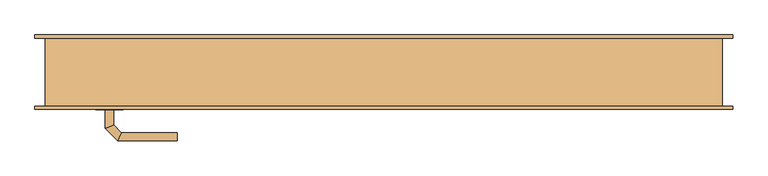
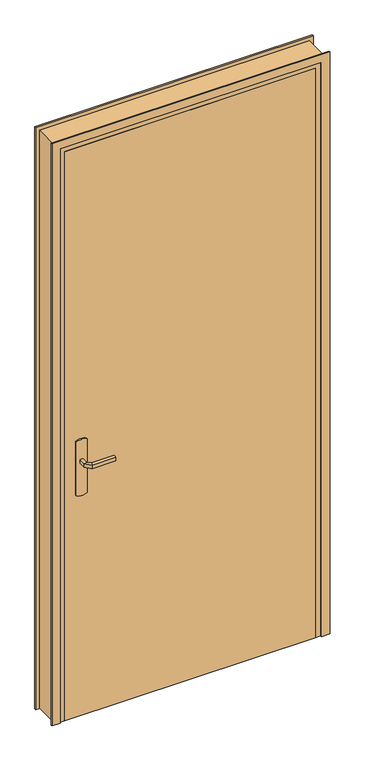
"""IFC4 building model written with IfcOpenShell, lengths in millimetres: door geometry, @_Int. Simple : @_PP (0.93m x 2.25)."""

from ifc_helpers import new_model, si_unit, point, frame, frame_2d, origin, origin_with_axes, place, context, project, spatial, polyline, circle_curve, ellipse_curve, trimmed, segment, composite_curve, outline, extrude, faceted_brep, source, transform, mapped, element, save
from ifc_brep_helpers import plane_surface, cylinder_surface, advanced_brep


def door_f0ec710b(model_context):
    return source(origin(), model_context, "Body", "SolidModel", [
        extrude(outline(composite_curve([segment(trimmed(circle_curve(frame_2d((904.6410162, -440.0)), 40.0), [point((870.0, -460.0))], [point((870.0, -420.0))], False, "CARTESIAN"), True, "CONTINUOUS"), segment(polyline([(870.0, -420.0), (1080.0, -420.0)]), True, "CONTINUOUS"), segment(trimmed(circle_curve(frame_2d((1045.3589838, -440.0)), 40.0), [point((1080.0, -420.0))], [point((1080.0, -460.0))], False, "CARTESIAN"), True, "CONTINUOUS"), segment(polyline([(1080.0, -460.0), (870.0, -460.0)]), True, "CONTINUOUS")], self_intersect=False)), frame((0.0, -55.0, 0.0), z_axis=(0.0, 1.0, 0.0), x_axis=(0.0, 0.0, 1.0)), (0.0, 0.0, 1.0), 5.0),
        extrude(outline(composite_curve([segment(trimmed(circle_curve(frame_2d((1045.3589838, -440.0)), 40.0), [point((1080.0, -420.0))], [point((1080.0, -460.0))], False, "CARTESIAN"), True, "CONTINUOUS"), segment(polyline([(1080.0, -460.0), (870.0, -460.0)]), True, "CONTINUOUS"), segment(trimmed(circle_curve(frame_2d((904.6410162, -440.0)), 40.0), [point((870.0, -460.0))], [point((870.0, -420.0))], False, "CARTESIAN"), True, "CONTINUOUS"), segment(polyline([(870.0, -420.0), (1080.0, -420.0)]), True, "CONTINUOUS")], self_intersect=False)), frame((0.0, -10.0, 0.0), z_axis=(0.0, 1.0, 0.0), x_axis=(0.0, 0.0, 1.0)), (0.0, 0.0, 1.0), 5.0),
        advanced_brep(
        [(-446.0, -55.0, 1007.0), (-434.0, -55.0, 1007.0), (-434.0, -55.0, 993.0), (-446.0, -55.0, 993.0), (-446.0, -82.6509507, 1007.0), (-434.0, -77.680388, 1007.0), (-434.0, -77.680388, 993.0), (-446.0, -82.6509507, 993.0), (-427.62279, -101.0281607, 1007.0), (-422.6522273, -89.0281607, 1007.0), (-422.6522273, -89.0281607, 993.0), (-427.62279, -101.0281607, 993.0), (-339.9813594, -101.0281607, 1007.0), (-339.9813594, -101.0281607, 993.0), (-339.9813594, -89.0281607, 993.0), (-339.9813594, -89.0281607, 1007.0)],
        [
            (0, 1, circle_curve(frame((-440.0, -55.0, 986.9542278), z_axis=(0.0, 1.0, 0.0), x_axis=(1.0, 0.0, 0.0)), 20.9244589)),
            (1, 2),
            (2, 3, circle_curve(frame((-440.0, -55.0, 1013.0457722), z_axis=(0.0, 1.0, 0.0), x_axis=(1.0, 0.0, 0.0)), 20.9244589)),
            (3, 0),
            (0, 4),
            (4, 5, ellipse_curve(frame((-440.0, -80.1656693, 986.9542278), z_axis=(-0.3826834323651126, 0.9238795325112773, 0.0), x_axis=(0.9238795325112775, 0.38268343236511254, 0.0)), 22.6484711, 20.9244589)),
            (5, 1),
            (5, 6),
            (6, 2),
            (6, 7, ellipse_curve(frame((-440.0, -80.1656693, 1013.0457722), z_axis=(-0.3826834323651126, 0.9238795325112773, 0.0), x_axis=(0.9238795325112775, 0.38268343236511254, 0.0)), 22.6484711, 20.9244589)),
            (7, 3),
            (7, 4),
            (4, 8),
            (8, 9, ellipse_curve(frame((-425.1375086, -95.0281607, 986.9542278), z_axis=(-0.9238795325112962, 0.38268343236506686, 0.0), x_axis=(0.3826834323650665, 0.9238795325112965, 0.0)), 22.6484711, 20.9244589)),
            (9, 5),
            (9, 10),
            (10, 6),
            (10, 11, ellipse_curve(frame((-425.1375086, -95.0281607, 1013.0457722), z_axis=(-0.9238795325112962, 0.38268343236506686, 0.0), x_axis=(0.3826834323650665, 0.9238795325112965, 0.0)), 22.6484711, 20.9244589)),
            (11, 7),
            (11, 8),
            (12, 13),
            (13, 14, circle_curve(frame((-339.9813594, -95.0281607, 1013.0457722), z_axis=(1.0, 0.0, 0.0), x_axis=(0.0, 1.0, 0.0)), 20.9244589)),
            (14, 15),
            (15, 12, circle_curve(frame((-339.9813594, -95.0281607, 986.9542278), z_axis=(1.0, 0.0, 0.0), x_axis=(0.0, 1.0, 0.0)), 20.9244589)),
            (8, 12),
            (15, 9),
            (14, 10),
            (13, 11),
        ],
        [
            plane_surface(frame((-449.2195445, -55.0, 1000.0), z_axis=(0.0, 1.0, 0.0), x_axis=(0.0, 0.0, -1.0))),
            cylinder_surface(frame((-440.0, -55.0, 986.9542278), z_axis=(0.0, 1.0, 0.0), x_axis=(1.0, 0.0, 0.0)), 20.9244589),
            plane_surface(frame((-434.0, -55.0, 1007.0), z_axis=(1.0, 0.0, 0.0), x_axis=(0.0, -1.0, 0.0))),
            cylinder_surface(frame((-440.0, -55.0, 1013.0457722), z_axis=(0.0, 1.0, 0.0), x_axis=(1.0, 0.0, 0.0)), 20.9244589),
            plane_surface(frame((-446.0, -55.0, 993.0), z_axis=(-1.0, 0.0, 0.0), x_axis=(0.0, -1.0, 0.0))),
            cylinder_surface(frame((-440.0, -80.1656693, 986.9542278), z_axis=(-0.7071067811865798, 0.7071067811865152, 0.0), x_axis=(0.7071067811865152, 0.7071067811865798, 0.0)), 20.9244589),
            plane_surface(frame((-434.0, -77.680388, 1007.0), z_axis=(0.7071067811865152, 0.7071067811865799, 0.0), x_axis=(0.7071067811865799, -0.7071067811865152, 0.0))),
            cylinder_surface(frame((-440.0, -80.1656693, 1013.0457722), z_axis=(-0.7071067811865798, 0.7071067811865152, 0.0), x_axis=(0.7071067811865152, 0.7071067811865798, 0.0)), 20.9244589),
            plane_surface(frame((-446.0, -82.6509507, 993.0), z_axis=(-0.7071067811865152, -0.7071067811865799, 0.0), x_axis=(0.7071067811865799, -0.7071067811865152, 0.0))),
            plane_surface(frame((-339.9813594, -95.0281607, 990.7804555), z_axis=(1.0, 0.0, 0.0), x_axis=(0.0, 1.0, 0.0))),
            cylinder_surface(frame((-425.1375086, -95.0281607, 986.9542278), z_axis=(-1.0, 0.0, 0.0), x_axis=(0.0, 1.0, 0.0)), 20.9244589),
            plane_surface(frame((-422.6522273, -89.0281607, 1007.0), z_axis=(0.0, 1.0, 0.0), x_axis=(1.0, 0.0, 0.0))),
            cylinder_surface(frame((-425.1375086, -95.0281607, 1013.0457722), z_axis=(-1.0, 0.0, 0.0), x_axis=(0.0, 1.0, 0.0)), 20.9244589),
            plane_surface(frame((-427.62279, -101.0281607, 993.0), z_axis=(0.0, -1.0, 0.0), x_axis=(1.0, 0.0, 0.0))),
        ],
        [
            (0, [[1, 2, 3, 4]]),
            (1, [[-1, 5, 6, 7]]),
            (2, [[-2, -7, 8, 9]]),
            (3, [[-3, -9, 10, 11]]),
            (4, [[-4, -11, 12, -5]]),
            (5, [[-6, 13, 14, 15]]),
            (6, [[-8, -15, 16, 17]]),
            (7, [[-10, -17, 18, 19]]),
            (8, [[-12, -19, 20, -13]]),
            (9, [[21, 22, 23, 24]]),
            (10, [[-14, 25, -24, 26]]),
            (11, [[-16, -26, -23, 27]]),
            (12, [[-18, -27, -22, 28]]),
            (13, [[-20, -28, -21, -25]]),
        ],
    ),
        advanced_brep(
        [(-434.0, -5.0, 993.0), (-434.0, -5.0, 1007.0), (-446.0, -5.0, 1007.0), (-446.0, -5.0, 993.0), (-434.0, 17.4852045, 993.0), (-434.0, 17.4852045, 1007.0), (-446.0, 22.4557673, 1007.0), (-446.0, 22.4557673, 993.0), (-422.5147186, 28.9704859, 993.0), (-422.5147186, 28.9704859, 1007.0), (-427.4852814, 40.9704859, 1007.0), (-427.4852814, 40.9704859, 993.0), (-339.9542163, 28.9704859, 993.0), (-339.9542163, 40.9704859, 993.0), (-339.9542163, 40.9704859, 1007.0), (-339.9542163, 28.9704859, 1007.0)],
        [
            (0, 1),
            (1, 2, circle_curve(frame((-440.0, -5.0, 986.9542278), z_axis=(0.0, -1.0, 0.0), x_axis=(-1.0, 0.0, 0.0)), 20.9244589)),
            (2, 3),
            (3, 0, circle_curve(frame((-440.0, -5.0, 1013.0457722), z_axis=(0.0, -1.0, 0.0), x_axis=(-1.0, 0.0, 0.0)), 20.9244589)),
            (0, 4),
            (4, 5),
            (5, 1),
            (5, 6, ellipse_curve(frame((-440.0, 19.9704859, 986.9542278), z_axis=(-0.3826834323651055, -0.9238795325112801, 0.0), x_axis=(0.9238795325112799, -0.3826834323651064, 0.0)), 22.6484711, 20.9244589)),
            (6, 2),
            (6, 7),
            (7, 3),
            (7, 4, ellipse_curve(frame((-440.0, 19.9704859, 1013.0457722), z_axis=(-0.3826834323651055, -0.9238795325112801, 0.0), x_axis=(0.9238795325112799, -0.3826834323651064, 0.0)), 22.6484711, 20.9244589)),
            (4, 8),
            (8, 9),
            (9, 5),
            (9, 10, ellipse_curve(frame((-425.0, 34.9704859, 986.9542278), z_axis=(-0.9238795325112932, -0.382683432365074, 0.0), x_axis=(0.3826834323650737, -0.9238795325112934, 0.0)), 22.6484711, 20.9244589)),
            (10, 6),
            (10, 11),
            (11, 7),
            (11, 8, ellipse_curve(frame((-425.0, 34.9704859, 1013.0457722), z_axis=(-0.9238795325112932, -0.382683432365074, 0.0), x_axis=(0.3826834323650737, -0.9238795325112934, 0.0)), 22.6484711, 20.9244589)),
            (12, 13, circle_curve(frame((-339.9542163, 34.9704859, 1013.0457722), z_axis=(1.0, 0.0, 0.0), x_axis=(0.0, 1.0, 0.0)), 20.9244589)),
            (13, 14),
            (14, 15, circle_curve(frame((-339.9542163, 34.9704859, 986.9542278), z_axis=(1.0, 0.0, 0.0), x_axis=(0.0, 1.0, 0.0)), 20.9244589)),
            (15, 12),
            (8, 12),
            (15, 9),
            (14, 10),
            (13, 11),
        ],
        [
            plane_surface(frame((-449.2195445, -5.0, 1000.0), z_axis=(0.0, -1.0, 0.0), x_axis=(0.0, 0.0, 1.0))),
            plane_surface(frame((-434.0, -5.0, 993.0), z_axis=(1.0, 0.0, 0.0), x_axis=(0.0, 1.0, 0.0))),
            cylinder_surface(frame((-440.0, -5.0, 986.9542278), z_axis=(0.0, -1.0, 0.0), x_axis=(-1.0, 0.0, 0.0)), 20.9244589),
            plane_surface(frame((-446.0, -5.0, 1007.0), z_axis=(-1.0, 0.0, 0.0), x_axis=(0.0, 1.0, 0.0))),
            cylinder_surface(frame((-440.0, -5.0, 1013.0457722), z_axis=(0.0, -1.0, 0.0), x_axis=(-1.0, 0.0, 0.0)), 20.9244589),
            plane_surface(frame((-434.0, 17.4852045, 993.0), z_axis=(0.7071067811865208, -0.7071067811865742, 0.0), x_axis=(0.7071067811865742, 0.7071067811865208, 0.0))),
            cylinder_surface(frame((-440.0, 19.9704859, 986.9542278), z_axis=(-0.7071067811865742, -0.7071067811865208, 0.0), x_axis=(-0.7071067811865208, 0.7071067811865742, 0.0)), 20.9244589),
            plane_surface(frame((-446.0, 22.4557673, 1007.0), z_axis=(-0.7071067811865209, 0.7071067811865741, 0.0), x_axis=(0.7071067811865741, 0.7071067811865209, 0.0))),
            cylinder_surface(frame((-440.0, 19.9704859, 1013.0457722), z_axis=(-0.7071067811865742, -0.7071067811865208, 0.0), x_axis=(-0.7071067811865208, 0.7071067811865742, 0.0)), 20.9244589),
            plane_surface(frame((-339.9542163, 34.9704859, 990.7804555), z_axis=(1.0, 0.0, 0.0), x_axis=(0.0, 1.0, 0.0))),
            plane_surface(frame((-422.5147186, 28.9704859, 993.0), z_axis=(0.0, -1.0, 0.0), x_axis=(1.0, 0.0, 0.0))),
            cylinder_surface(frame((-425.0, 34.9704859, 986.9542278), z_axis=(-1.0, 0.0, 0.0), x_axis=(0.0, 1.0, 0.0)), 20.9244589),
            plane_surface(frame((-427.4852814, 40.9704859, 1007.0), z_axis=(0.0, 1.0, 0.0), x_axis=(1.0, 0.0, 0.0))),
            cylinder_surface(frame((-425.0, 34.9704859, 1013.0457722), z_axis=(-1.0, 0.0, 0.0), x_axis=(0.0, 1.0, 0.0)), 20.9244589),
        ],
        [
            (0, [[1, 2, 3, 4]]),
            (1, [[-1, 5, 6, 7]]),
            (2, [[-2, -7, 8, 9]]),
            (3, [[-3, -9, 10, 11]]),
            (4, [[-4, -11, 12, -5]]),
            (5, [[-6, 13, 14, 15]]),
            (6, [[-8, -15, 16, 17]]),
            (7, [[-10, -17, 18, 19]]),
            (8, [[-12, -19, 20, -13]]),
            (9, [[21, 22, 23, 24]]),
            (10, [[-14, 25, -24, 26]]),
            (11, [[-16, -26, -23, 27]]),
            (12, [[-18, -27, -22, 28]]),
            (13, [[-20, -28, -21, -25]]),
        ],
    ),
        extrude(outline(polyline([(-500.0, -10.0), (430.0, -10.0), (430.0, -50.0), (-500.0, -50.0), (-500.0, -10.0)])), origin_with_axes(), (0.0, 0.0, 1.0), 2230.0),
        faceted_brep([(-535.0, -50.0, 0.0), (-535.0, 50.0, 0.0), (-485.0, 50.0, 0.0), (-485.0, -10.0, 0.0), (-500.0, -10.0, 0.0), (-500.0, -50.0, 0.0), (-535.0, -50.0, 2265.0), (-535.0, 50.0, 2265.0), (465.0, 50.0, 2265.0), (465.0, 50.0, 0.0), (415.0, 50.0, 0.0), (415.0, 50.0, 2215.0), (-485.0, 50.0, 2215.0), (-485.0, -10.0, 2215.0), (415.0, -10.0, 2215.0), (415.0, -10.0, 0.0), (430.0, -10.0, 0.0), (430.0, -10.0, 2230.0), (-500.0, -10.0, 2230.0), (-500.0, -50.0, 2230.0), (430.0, -50.0, 2230.0), (430.0, -50.0, 0.0), (465.0, -50.0, 0.0), (465.0, -50.0, 2265.0)], [[[0, 1, 2, 3, 4, 5]], [[1, 0, 6, 7]], [[2, 1, 7, 8, 9, 10, 11, 12]], [[3, 2, 12, 13]], [[4, 3, 13, 14, 15, 16, 17, 18]], [[5, 4, 18, 19]], [[0, 5, 19, 20, 21, 22, 23, 6]], [[8, 23, 22, 9]], [[22, 21, 16, 15, 10, 9]], [[14, 11, 10, 15]], [[20, 17, 16, 21]], [[7, 6, 23, 8]], [[13, 12, 11, 14]], [[19, 18, 17, 20]]]),
        extrude(outline(polyline([(0.0, -550.0), (0.0, -520.0), (2250.0, -520.0), (2250.0, 450.0), (0.0, 450.0), (0.0, 480.0), (2280.0, 480.0), (2280.0, -550.0), (0.0, -550.0)])), frame((0.0, -55.0, 0.0), z_axis=(0.0, 1.0, 0.0), x_axis=(0.0, 0.0, 1.0)), (0.0, 0.0, 1.0), 5.0),
        extrude(outline(polyline([(0.0, -550.0), (0.0, -520.0), (2250.0, -520.0), (2250.0, 450.0), (0.0, 450.0), (0.0, 480.0), (2280.0, 480.0), (2280.0, -550.0), (0.0, -550.0)])), frame((0.0, 50.0, 0.0), z_axis=(0.0, 1.0, 0.0), x_axis=(0.0, 0.0, 1.0)), (0.0, 0.0, 1.0), 5.0),
    ])


if __name__ == "__main__":
    model = new_model("IFC4")
    model_context = context("Model", 3, world=origin())
    ifc_project = project(units=[si_unit("LENGTHUNIT", "METRE", prefix="MILLI")], contexts=[model_context])
    site = spatial("IfcSite", under=ifc_project)
    building = spatial("IfcBuilding", under=site)
    placement = place(None, origin())
    door_shape = door_f0ec710b(model_context)
    element("IfcDoor", 1, ObjectType="@_Int. Simple : @_PP (0.93m x 2.25)", at=placement, inside=building, context=model_context, shape_type="MappedRepresentation", body=[
        mapped(door_shape, transform((0.0, 0.0, 0.0), x_axis=(1.0, 0.0, 0.0), y_axis=(0.0, 1.0, 0.0), z_axis=(0.0, 0.0, 1.0))),
    ])
    save(model, "model.ifc")
